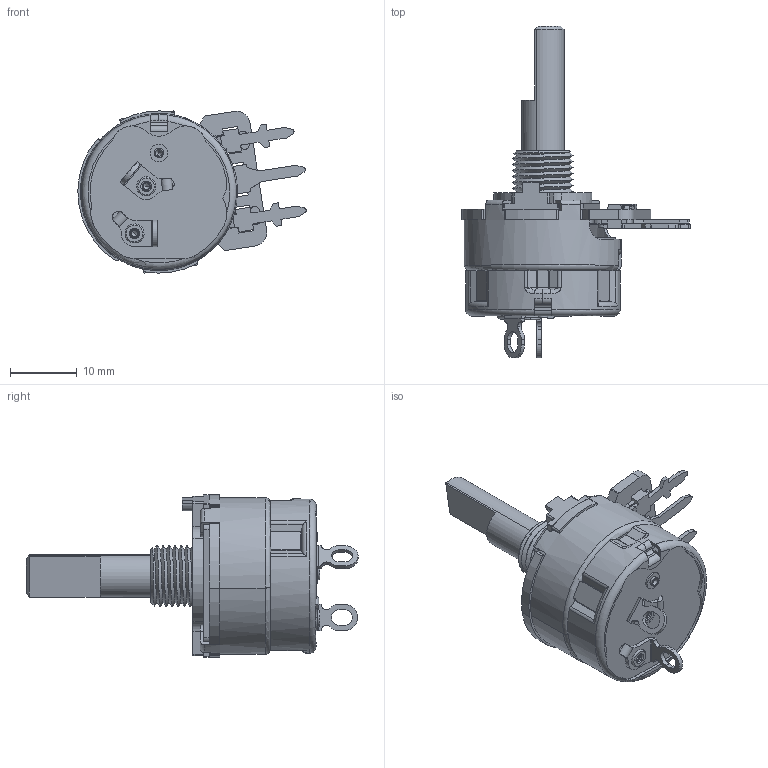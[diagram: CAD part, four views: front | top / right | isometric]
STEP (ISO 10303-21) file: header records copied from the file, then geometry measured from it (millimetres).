
FILE_DESCRIPTION (( 'STEP AP214' ), '1' );
FILE_NAME ('450XMM5F504A1C1(TGC-XMPM450).STEP', '2019-05-27T01:12:56', ( '' ), ( '' ), 'SwSTEP 2.0', 'SolidWorks 2019', '' );
FILE_SCHEMA (( 'AUTOMOTIVE_DESIGN' ));
Length unit declared in the file: millimetre
Products named in the file (17): G-D-1_G_D_1; 450-40-019-02-53 for MP45C-31_2-45Q-T; X450AEDF-2; 450XMM5F504A1C1(TGC-XMPM450); 450D-5 for X450AEDF-2; G-D-1_G_E_1; 450A-104G; Pivot_G_B_5C_RollOver Operation; Cover_GK_4_Embossed Operatopm; MP45C31; 450F-6; 450 element; SwitchBaseAssembling_Dummy GC-42T; Counter RivotGC_C_1G_RollOver Operation; 7F-G45K-332-190; Switch BaseG_A_19; Simple TGC-39
Assembly tree (18 placements, depth 4):
  450XMM5F504A1C1(TGC-XMPM450)
    Simple TGC-39
      Cover_GK_4_Embossed Operatopm
      SwitchBaseAssembling_Dummy GC-42T
        Switch BaseG_A_19
        G-D-1_G_D_1
        G-D-1_G_E_1
        Counter RivotGC_C_1G_RollOver Operation  x2
        Pivot_G_B_5C_RollOver Operation
    450-40-019-02-53 for MP45C-31_2-45Q-T
    X450AEDF-2
      450A-104G
      450 element
      450F-6  x2
      450D-5 for X450AEDF-2
    MP45C31
    7F-G45K-332-190
Bounding box: 34.26 x 49.81 x 24.33 mm (x, y, z)
Volume: 4375.6 mm3; surface area: 9444.7 mm2
Topology: 15 solids, 15 shells, 1013 faces, 2756 edges, 1763 vertices
Faces by surface type: plane 494, cylinder 375, torus 80, cone 37, sphere 14, bspline 13
Entity records: 31946 total; most frequent: CARTESIAN_POINT 7247, DIRECTION 5176, ORIENTED_EDGE 5044, EDGE_CURVE 2522, AXIS2_PLACEMENT_3D 1884, VERTEX_POINT 1629, VECTOR 1408, LINE 1408
